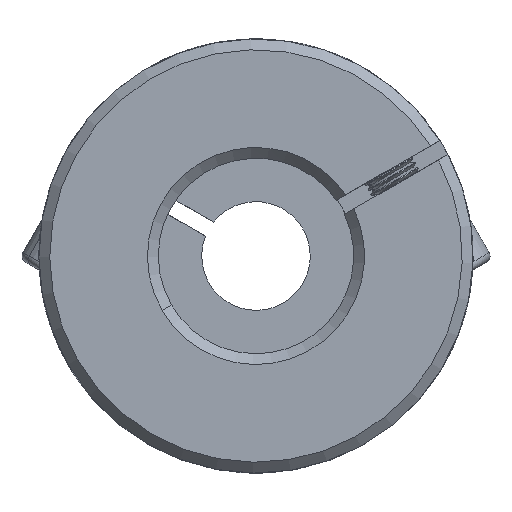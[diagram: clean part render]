
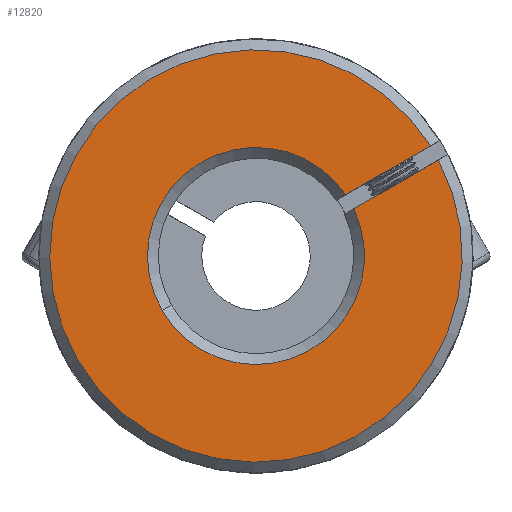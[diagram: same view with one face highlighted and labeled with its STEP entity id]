
A CAD part, front view. The second image highlights one B-rep face of the part: STEP entity #12820.
In plain terms, the highlighted planar face has unit normal (0, -1, 0).
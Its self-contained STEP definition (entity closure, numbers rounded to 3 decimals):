
#591 = VERTEX_POINT ( 'NONE', #9192 ) ;
#631 = CARTESIAN_POINT ( 'NONE',  ( 5.943, -31.239, 45.136 ) ) ;
#681 = DIRECTION ( 'NONE',  ( -0.866, 0., -0.5 ) ) ;
#848 = ORIENTED_EDGE ( 'NONE', *, *, #8288, .T. ) ;
#928 = ORIENTED_EDGE ( 'NONE', *, *, #12518, .T. ) ;
#943 = VECTOR ( 'NONE', #681, 1000. ) ;
#1318 = DIRECTION ( 'NONE',  ( 0., 1., 0. ) ) ;
#1424 = DIRECTION ( 'NONE',  ( 0., 1., 0. ) ) ;
#1793 = CARTESIAN_POINT ( 'NONE',  ( 15.367, -31.239, 48.848 ) ) ;
#2083 = AXIS2_PLACEMENT_3D ( 'NONE', #11149, #1424, #11010 ) ;
#2126 = DIRECTION ( 'NONE',  ( 0.5, 0., -0.866 ) ) ;
#2325 = LINE ( 'NONE', #7313, #3687 ) ;
#2889 = DIRECTION ( 'NONE',  ( 0., -1., 0. ) ) ;
#2932 = EDGE_CURVE ( 'NONE', #8592, #2972, #5506, .T. ) ;
#2972 = VERTEX_POINT ( 'NONE', #2974 ) ;
#2974 = CARTESIAN_POINT ( 'NONE',  ( 6.812, -31.239, 45.638 ) ) ;
#3110 = FACE_OUTER_BOUND ( 'NONE', #6383, .T. ) ;
#3687 = VECTOR ( 'NONE', #6166, 1000. ) ;
#4105 = VERTEX_POINT ( 'NONE', #1793 ) ;
#4265 = CARTESIAN_POINT ( 'NONE',  ( -1.447, -31.239, 40. ) ) ;
#4482 = CIRCLE ( 'NONE', #13124, 10. ) ;
#4512 = EDGE_CURVE ( 'NONE', #12313, #4105, #2325, .T. ) ;
#4677 = CARTESIAN_POINT ( 'NONE',  ( 52.98, -31.239, 45.743 ) ) ;
#4715 = CARTESIAN_POINT ( 'NONE',  ( 7.562, -31.239, 44.339 ) ) ;
#4781 = PLANE ( 'NONE',  #10332 ) ;
#5506 = LINE ( 'NONE', #631, #943 ) ;
#6108 = DIRECTION ( 'NONE',  ( 0.5, 0., -0.866 ) ) ;
#6155 = AXIS2_PLACEMENT_3D ( 'NONE', #8243, #2889, #6108 ) ;
#6166 = DIRECTION ( 'NONE',  ( 0.866, 0., 0.5 ) ) ;
#6314 = CIRCLE ( 'NONE', #6155, 19. ) ;
#6383 = EDGE_LOOP ( 'NONE', ( #9930, #928, #848, #12221, #6555 ) ) ;
#6555 = ORIENTED_EDGE ( 'NONE', *, *, #7962, .T. ) ;
#7313 = CARTESIAN_POINT ( 'NONE',  ( 6.694, -31.239, 43.837 ) ) ;
#7962 = EDGE_CURVE ( 'NONE', #8592, #4105, #6314, .T. ) ;
#8243 = CARTESIAN_POINT ( 'NONE',  ( -1.447, -31.239, 40. ) ) ;
#8288 = EDGE_CURVE ( 'NONE', #591, #2972, #8507, .T. ) ;
#8507 = CIRCLE ( 'NONE', #2083, 10. ) ;
#8592 = VERTEX_POINT ( 'NONE', #11600 ) ;
#9192 = CARTESIAN_POINT ( 'NONE',  ( -10.106, -31.239, 34.997 ) ) ;
#9930 = ORIENTED_EDGE ( 'NONE', *, *, #4512, .F. ) ;
#10332 = AXIS2_PLACEMENT_3D ( 'NONE', #4677, #1318, #11046 ) ;
#11010 = DIRECTION ( 'NONE',  ( 0.5, 0., -0.866 ) ) ;
#11046 = DIRECTION ( 'NONE',  ( 0.5, 0., -0.866 ) ) ;
#11149 = CARTESIAN_POINT ( 'NONE',  ( -1.447, -31.239, 40. ) ) ;
#11600 = CARTESIAN_POINT ( 'NONE',  ( 14.616, -31.239, 50.147 ) ) ;
#12221 = ORIENTED_EDGE ( 'NONE', *, *, #2932, .F. ) ;
#12313 = VERTEX_POINT ( 'NONE', #4715 ) ;
#12518 = EDGE_CURVE ( 'NONE', #12313, #591, #4482, .T. ) ;
#12785 = DIRECTION ( 'NONE',  ( 0., 1., 0. ) ) ;
#12820 = ADVANCED_FACE ( 'NONE', ( #3110 ), #4781, .F. ) ;
#13124 = AXIS2_PLACEMENT_3D ( 'NONE', #4265, #12785, #2126 ) ;
